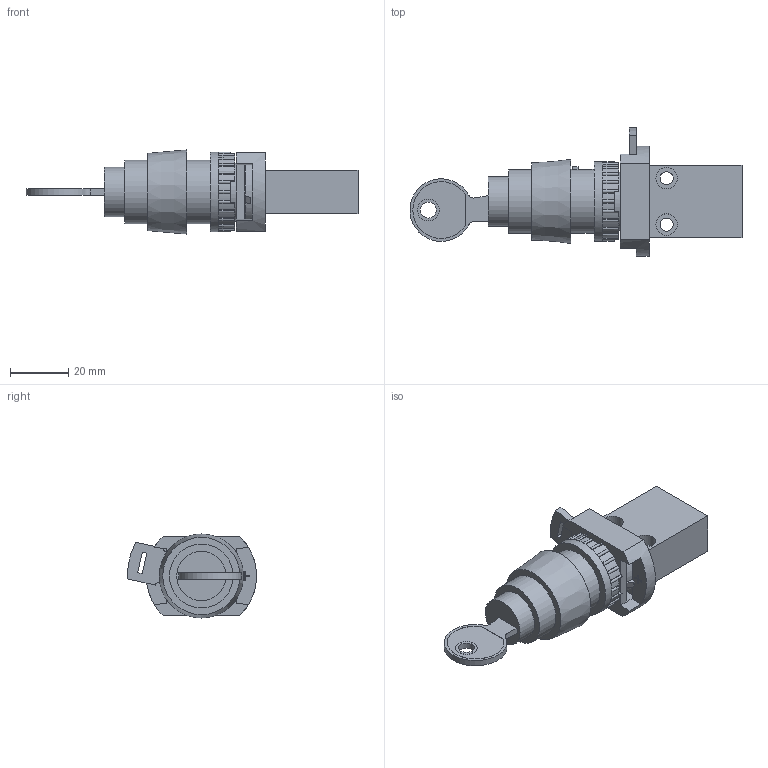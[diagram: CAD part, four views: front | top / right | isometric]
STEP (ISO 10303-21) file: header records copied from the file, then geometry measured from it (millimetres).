
FILE_DESCRIPTION (( 'STEP AP214' ), '1' );
FILE_NAME ('18-T-23-014---T-25-311_Airtec.step', '2018-11-15T13:10:36', ( '' ), ( '' ), 'SwSTEP 2.0', 'SolidWorks 2010', '' );
FILE_SCHEMA (( 'AUTOMOTIVE_DESIGN' ));
Length unit declared in the file: millimetre
Products named in the file (3): 18-T-23-014-Airtec; T-25-311_161206; 18-T-23-014---T-25-311_Airtec
Assembly tree (2 placements, depth 2):
  18-T-23-014---T-25-311_Airtec
    T-25-311_161206
    18-T-23-014-Airtec
Bounding box: 114.47 x 44.48 x 29 mm (x, y, z)
Volume: 39131.3 mm3; surface area: 15253.4 mm2
Topology: 2 solids, 2 shells, 388 faces, 1051 edges, 681 vertices
Faces by surface type: plane 182, cylinder 148, cone 44, torus 13, sphere 1
Full cylindrical faces by diameter (mm): 2.693 x2, 3.2 x2, 4.134 x2, 4.5 x2, 5.5 x1, 5.7 x2, 6 x1, 7.4 x4, 7.5 x2, 10 x1, 16 x1, 17 x1, 20 x1, 20.3 x1, 22 x2, 27.4 x1
Entity records: 12494 total; most frequent: CARTESIAN_POINT 2607, DIRECTION 2148, ORIENTED_EDGE 2000, EDGE_CURVE 1000, AXIS2_PLACEMENT_3D 854, VERTEX_POINT 669, EDGE_LOOP 461, CIRCLE 461
